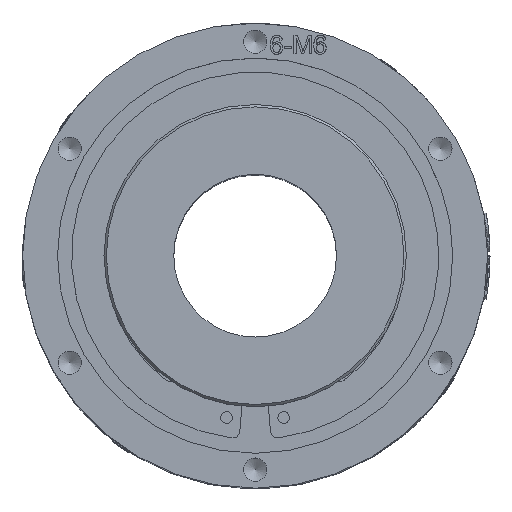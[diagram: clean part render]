
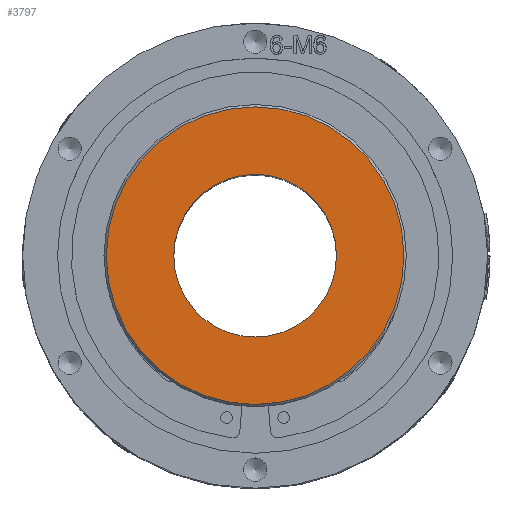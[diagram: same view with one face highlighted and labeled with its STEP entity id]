
A CAD part, top view. The second image highlights one B-rep face of the part: STEP entity #3797.
In plain terms, the highlighted planar face has unit normal (0, 0, 1).
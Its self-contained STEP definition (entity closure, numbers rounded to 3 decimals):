
#299=PLANE('',#24427);
#3342=FACE_BOUND('',#6436,.T.);
#3343=FACE_BOUND('',#6437,.T.);
#3797=ADVANCED_FACE('',(#3342,#3343),#299,.T.);
#6436=EDGE_LOOP('',(#12562));
#6437=EDGE_LOOP('',(#12563));
#12562=ORIENTED_EDGE('',*,*,#21400,.T.);
#12563=ORIENTED_EDGE('',*,*,#20321,.F.);
#17946=VERTEX_POINT('',#27817);
#18802=VERTEX_POINT('',#41634);
#20321=EDGE_CURVE('',#17946,#17946,#23810,.T.);
#21400=EDGE_CURVE('',#18802,#18802,#23922,.T.);
#23810=CIRCLE('',#23998,17.5);
#23922=CIRCLE('',#24425,32.);
#23998=AXIS2_PLACEMENT_3D('',#27816,#24869,#24870);
#24425=AXIS2_PLACEMENT_3D('',#41633,#25988,#25989);
#24427=AXIS2_PLACEMENT_3D('',#41636,#25992,#25993);
#24869=DIRECTION('',(0.,0.,1.));
#24870=DIRECTION('',(1.,0.,0.));
#25988=DIRECTION('',(0.,0.,1.));
#25989=DIRECTION('',(1.,0.,0.));
#25992=DIRECTION('',(0.,0.,1.));
#25993=DIRECTION('',(1.,0.,0.));
#27816=CARTESIAN_POINT('',(0.,0.,109.5));
#27817=CARTESIAN_POINT('',(17.5,0.,109.5));
#41633=CARTESIAN_POINT('',(0.,0.,109.5));
#41634=CARTESIAN_POINT('',(32.,0.,109.5));
#41636=CARTESIAN_POINT('',(0.,0.,109.5));
